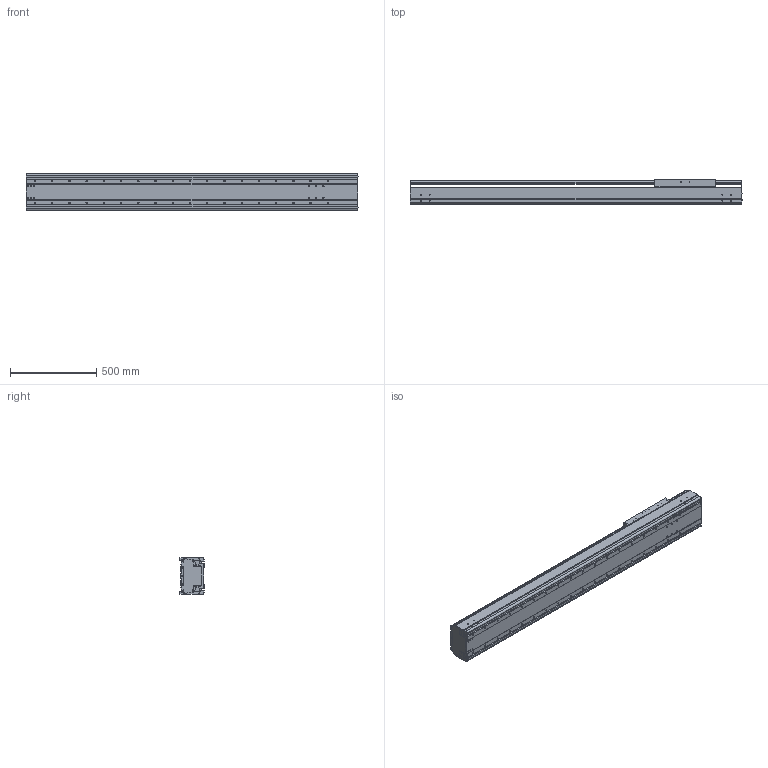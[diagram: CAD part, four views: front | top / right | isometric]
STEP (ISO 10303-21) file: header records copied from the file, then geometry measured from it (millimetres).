
FILE_DESCRIPTION((''),'2;1');
FILE_NAME('BE60J-ST-L_B-D5_IGS_PRT','2017-06-18T',(' '),(''),'PRO/ENGINEER BY PARAMETRIC TECHNOLOGY CORPORATION, 2015030','PRO/ENGINEER BY PARAMETRIC TECHNOLOGY CORPORATION, 2015030','');
FILE_SCHEMA(('CONFIG_CONTROL_DESIGN'));
Length unit declared in the file: millimetre
Products named in the file (1): BE60J-ST-L_B-D5_IGS_PRT
Bounding box: 1927.4 x 140 x 214 mm (x, y, z)
Volume: 15259961.2 mm3; surface area: 4026958.7 mm2
Topology: 2 solids, 32 shells, 1161 faces, 3060 edges, 1970 vertices
Faces by surface type: plane 537, cylinder 516, cone 60, sphere 24, torus 24
Entity records: 36225 total; most frequent: CARTESIAN_POINT 6760, DIRECTION 6330, ORIENTED_EDGE 5888, EDGE_CURVE 3000, AXIS2_PLACEMENT_3D 2286, VERTEX_POINT 1968, VECTOR 1758, LINE 1758
